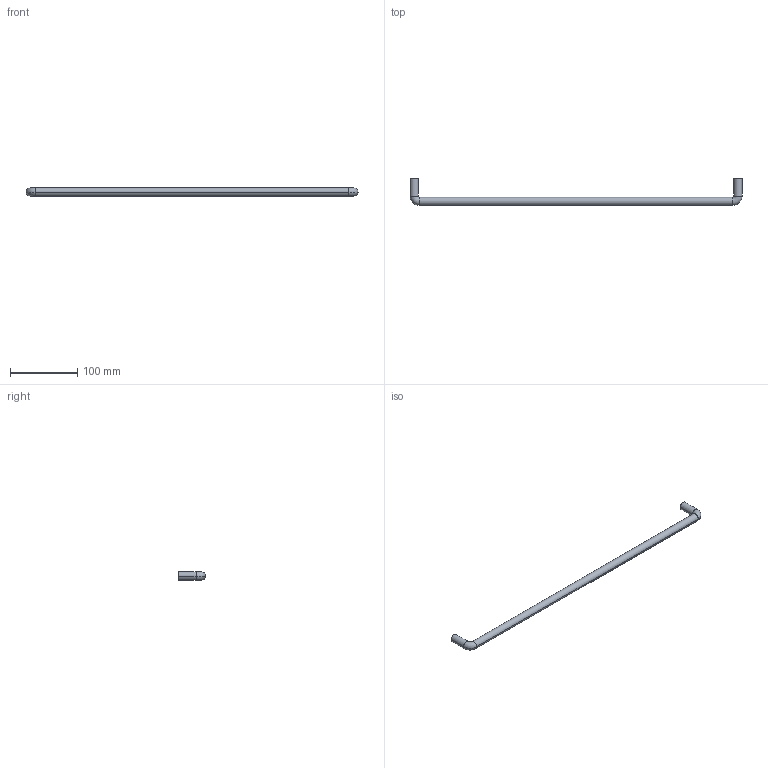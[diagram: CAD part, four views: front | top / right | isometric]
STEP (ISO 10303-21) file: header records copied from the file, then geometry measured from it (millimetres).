
FILE_DESCRIPTION( ( '' ), '1' );
FILE_NAME( 'C:/Documents and Settings/Sachin/Desktop/Sheet 10_1/stp/9070120.stp', '2013-10-22T08:20:14', ( '' ), ( '' ), ' ', ' ', ' ' );
FILE_SCHEMA( ( 'CONFIG_CONTROL_DESIGN' ) );
Length unit declared in the file: millimetre
Products named in the file (1): 1
Bounding box: 492 x 40 x 12 mm (x, y, z)
Volume: 60949.3 mm3; surface area: 20877.7 mm2
Topology: 1 solids, 1 shells, 18 faces, 34 edges, 20 vertices
Faces by surface type: cylinder 10, torus 4, plane 4
Entity records: 502 total; most frequent: DIRECTION 96, CARTESIAN_POINT 73, ORIENTED_EDGE 68, AXIS2_PLACEMENT_3D 43, EDGE_CURVE 34, CIRCLE 24, EDGE_LOOP 20, VERTEX_POINT 20
